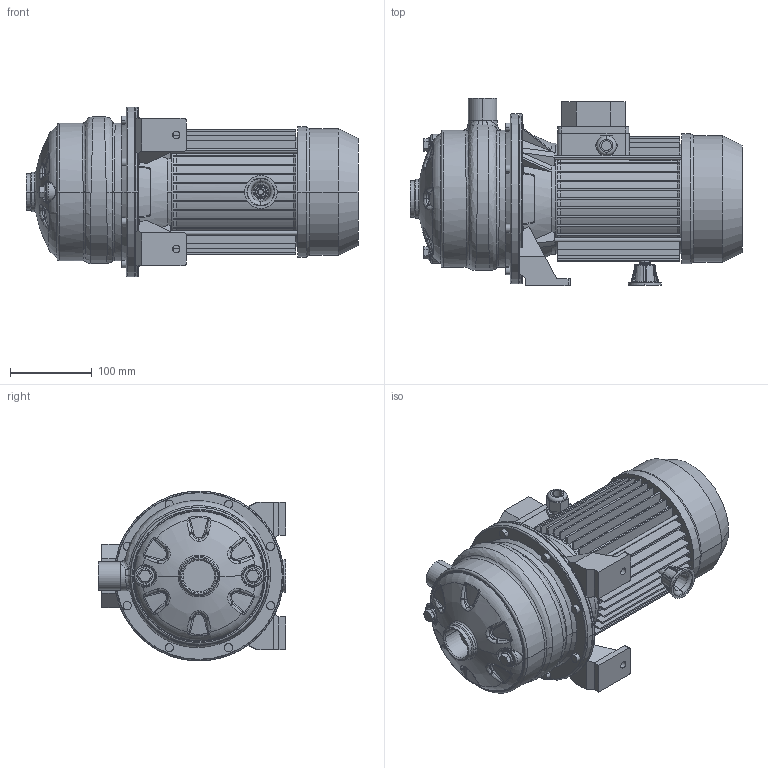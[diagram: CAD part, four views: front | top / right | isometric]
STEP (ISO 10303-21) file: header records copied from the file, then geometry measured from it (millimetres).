
FILE_DESCRIPTION((''),'2;1');
FILE_NAME('2CDX_120_20_IE3_ASM','2019-03-29T',('rosa'),('"Ebara Pumps Europe +39.444.706811"'),'PRO/ENGINEER BY PARAMETRIC TECHNOLOGY CORPORATION, 2017170','PRO/ENGINEER BY PARAMETRIC TECHNOLOGY CORPORATION, 2017170','');
FILE_SCHEMA(('AUTOMOTIVE_DESIGN { 1 0 10303 214 1 1 1 1 }'));
Products named in the file (5): MEC_80X130_IE3; 80546; 251420694; 72011; 2CDX_120_20_IE3_ASM
Assembly tree (4 placements, depth 2):
  2CDX_120_20_IE3_ASM
    MEC_80X130_IE3
    80546
    251420694
    72011
Bounding box: 406.5 x 229 x 208 mm (x, y, z)
Volume: 4790370.7 mm3; surface area: 637523.6 mm2
Topology: 4 solids, 4 shells, 1009 faces, 2407 edges, 1450 vertices
Faces by surface type: plane 399, bspline 210, cylinder 198, cone 124, torus 76, sphere 2
Entity records: 48232 total; most frequent: CARTESIAN_POINT 17888, ORIENTED_EDGE 4814, DIRECTION 4309, PRESENTATION_STYLE_ASSIGNMENT 2411, STYLED_ITEM 2411, CURVE_STYLE 2407, EDGE_CURVE 2407, AXIS2_PLACEMENT_3D 1726
